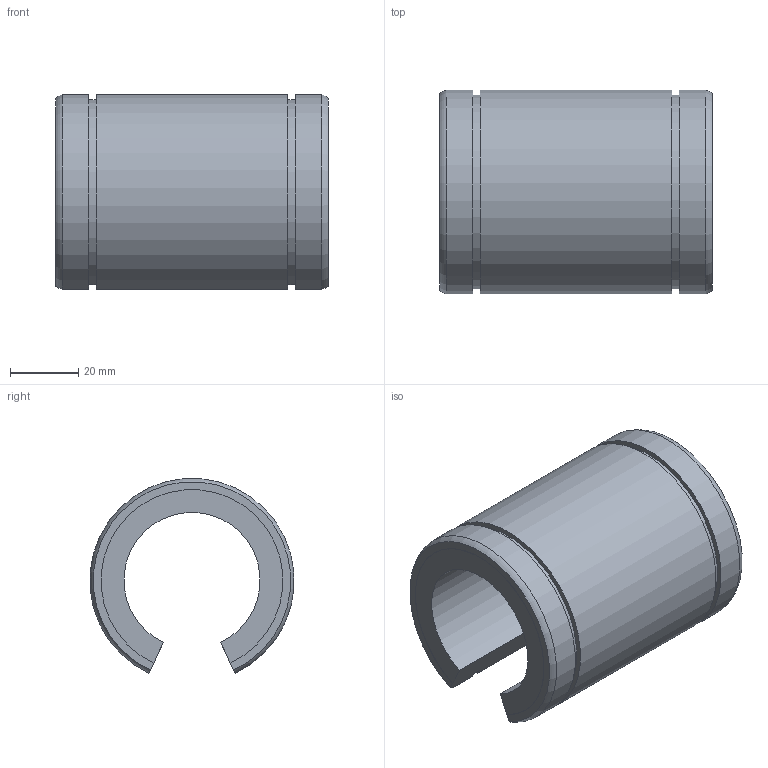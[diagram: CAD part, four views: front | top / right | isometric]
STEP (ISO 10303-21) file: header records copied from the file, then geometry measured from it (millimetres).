
FILE_DESCRIPTION((''),'2;1');
FILE_NAME('D:\製品 (図面)\カタログ用3D\リニアベアリング関連\STEP形式\L-OP\L40-OP.stp','2010-06-04T09:37:04',('Tsuchiya'),(''),'Autodesk Inventor 10','Autodesk Inventor 10','');
FILE_SCHEMA(('AUTOMOTIVE_DESIGN { 1 0 10303 214 1 1 1 1 }'));
Length unit declared in the file: millimetre
Products named in the file (1): L40-OP
Bounding box: 80 x 59.78 x 57.1 mm (x, y, z)
Volume: 106874 mm3; surface area: 26625.1 mm2
Topology: 1 solids, 1 shells, 20 faces, 54 edges, 36 vertices
Faces by surface type: plane 10, cylinder 8, torus 2
Entity records: 687 total; most frequent: CARTESIAN_POINT 147, DIRECTION 110, ORIENTED_EDGE 108, EDGE_CURVE 54, AXIS2_PLACEMENT_3D 39, VERTEX_POINT 36, VECTOR 32, LINE 32
